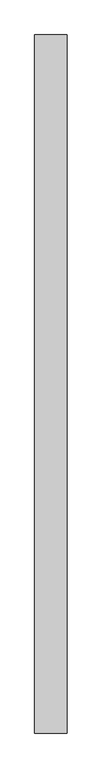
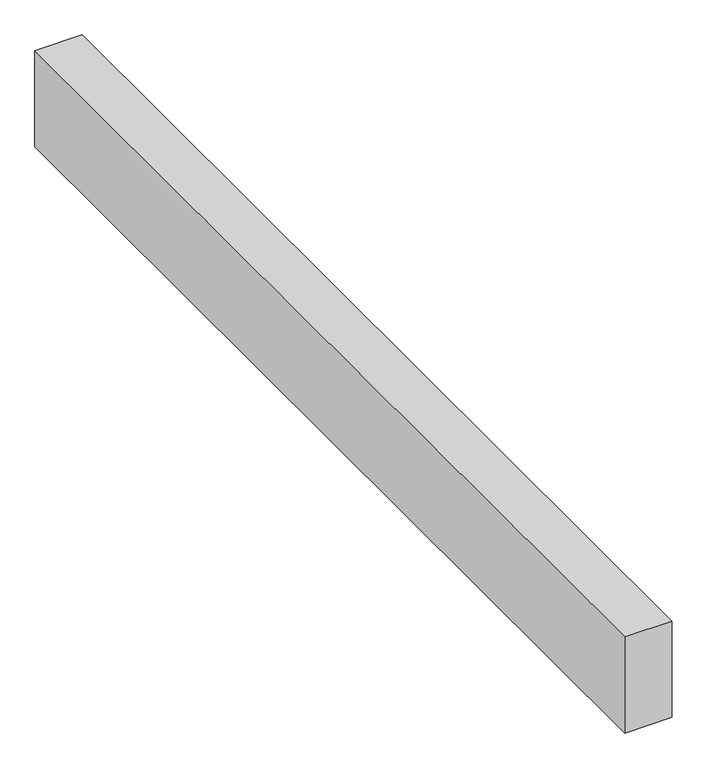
"""IFC4 building model written with IfcOpenShell, lengths in millimetres: proxy geometry."""

from ifc_helpers import new_model, si_unit, frame, origin, place, context, project, spatial, polyline, outline, extrude, source, transform, mapped, element, save


def structural_framing_d9bdb308(model_context):
    return source(origin(), model_context, "Body", "SweptSolid", [
        extrude(outline(polyline([(70.0, -1507.5), (-70.0, -1507.5), (-70.0, 1507.5), (70.0, 1507.5), (70.0, -1507.5)])), frame((0.0, 0.0, -300.0), z_axis=(0.0, 0.0, 1.0), x_axis=(1.0, 0.0, 0.0)), (0.0, 0.0, 1.0), 300.0),
    ])


if __name__ == "__main__":
    model = new_model("IFC4")
    model_context = context("Model", 3, world=origin())
    ifc_project = project(units=[si_unit("LENGTHUNIT", "METRE", prefix="MILLI")], contexts=[model_context])
    site = spatial("IfcSite", under=ifc_project)
    building = spatial("IfcBuilding", under=site)
    placement = place(None, origin())
    structural_framing_shape = structural_framing_d9bdb308(model_context)
    element("IfcBuildingElementProxy", 1, Name="Structural Framing", at=placement, inside=building, context=model_context, shape_type="MappedRepresentation", body=[
        mapped(structural_framing_shape, transform((0.0, 0.0, 0.0), x_axis=(1.0, 0.0, 0.0), y_axis=(0.0, 1.0, 0.0), z_axis=(0.0, 0.0, 1.0))),
    ])
    save(model, "model.ifc")
